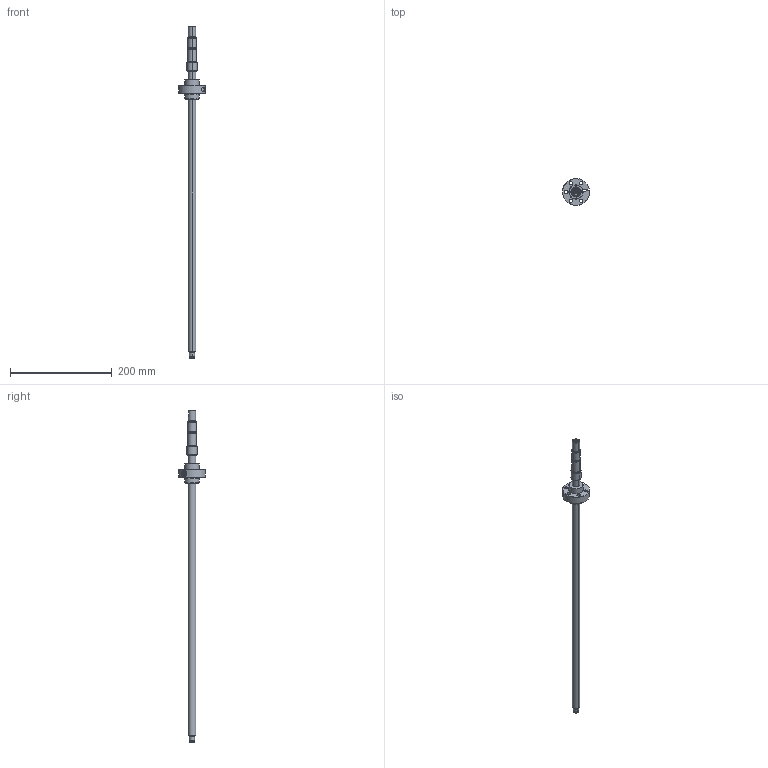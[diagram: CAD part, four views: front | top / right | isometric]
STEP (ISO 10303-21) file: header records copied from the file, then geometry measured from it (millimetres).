
FILE_DESCRIPTION((''),'2;1');
FILE_NAME('BASA_16X5RX3_SE_ASM','2025-01-15T23:45:19',('ac91sw'),(''),'CREO PARAMETRIC BY PTC INC, 2023134','CREO PARAMETRIC BY PTC INC, 2023134','');
FILE_SCHEMA(('AUTOMOTIVE_DESIGN { 1 0 10303 214 1 1 1 1 }'));
Length unit declared in the file: millimetre
Products named in the file (5): BASA_16X5RX3_SE_SKEL; BASA_16X5RX3_SE_SPDL_AF0; R151Z01024_AF0; R343702401_AF0; BASA_16X5RX3_SE_ASM
Assembly tree (4 placements, depth 2):
  BASA_16X5RX3_SE_ASM
    BASA_16X5RX3_SE_SKEL
    BASA_16X5RX3_SE_SPDL_AF0
    R151Z01024_AF0
    R343702401_AF0
Bounding box: 52.96 x 52.98 x 651.5 mm (x, y, z)
Volume: 152695.1 mm3; surface area: 46460.5 mm2
Topology: 3 solids, 8 shells, 201 faces, 457 edges, 275 vertices
Faces by surface type: cylinder 77, cone 60, plane 46, torus 18
Entity records: 11719 total; most frequent: CARTESIAN_POINT 1920, DIRECTION 1093, ORIENTED_EDGE 878, PROPERTY_DEFINITION 773, REPRESENTATION 767, PROPERTY_DEFINITION_REPRESENTATION 767, DESCRIPTIVE_REPRESENTATION_ITEM 729, GENERAL_PROPERTY 724
